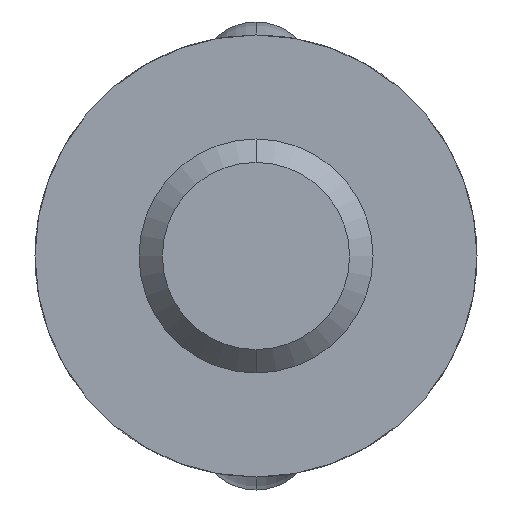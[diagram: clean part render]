
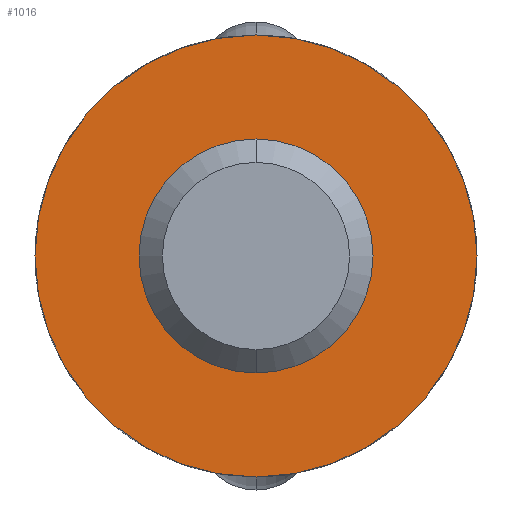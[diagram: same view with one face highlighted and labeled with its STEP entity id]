
A CAD part, front view. The second image highlights one B-rep face of the part: STEP entity #1016.
In plain terms, the highlighted planar face has unit normal (0, -1, 0).
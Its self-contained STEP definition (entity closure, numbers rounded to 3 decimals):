
#1016=ADVANCED_FACE('',(#2014,#2015),#2016,.F.);
#2014=FACE_OUTER_BOUND('',#10220,.T.);
#2015=FACE_BOUND('',#10221,.T.);
#2016=PLANE('',#10222);
#10220=EDGE_LOOP('',(#12804,#12805));
#10221=EDGE_LOOP('',(#12806,#12807));
#10222=AXIS2_PLACEMENT_3D('',#12808,#12809,#12810);
#12804=ORIENTED_EDGE('',*,*,#13660,.T.);
#12805=ORIENTED_EDGE('',*,*,#14015,.T.);
#12806=ORIENTED_EDGE('',*,*,#13691,.T.);
#12807=ORIENTED_EDGE('',*,*,#13707,.T.);
#12808=CARTESIAN_POINT('',(0.0,-139.0,0.0));
#12809=DIRECTION('',(0.0,1.0,0.0));
#12810=DIRECTION('',(1.0,0.0,-0.0));
#13660=EDGE_CURVE('',#15279,#15276,#15280,.T.);
#13691=EDGE_CURVE('',#15327,#15330,#15332,.T.);
#13707=EDGE_CURVE('',#15330,#15327,#15352,.T.);
#14015=EDGE_CURVE('',#15276,#15279,#15783,.T.);
#15276=VERTEX_POINT('',#23234);
#15279=VERTEX_POINT('',#23238);
#15280=CIRCLE('',#23239,85.);
#15327=VERTEX_POINT('',#23335);
#15330=VERTEX_POINT('',#23339);
#15332=CIRCLE('',#23342,40.5);
#15352=CIRCLE('',#23366,40.5);
#15783=CIRCLE('',#24766,85.);
#23234=CARTESIAN_POINT('',(0.,-139.,-85.));
#23238=CARTESIAN_POINT('',(0.,-139.,85.));
#23239=AXIS2_PLACEMENT_3D('',#25714,#25715,#25716);
#23335=CARTESIAN_POINT('',(0.0,-139.0,40.5));
#23339=CARTESIAN_POINT('',(0.,-139.0,-40.5));
#23342=AXIS2_PLACEMENT_3D('',#25758,#25759,#25760);
#23366=AXIS2_PLACEMENT_3D('',#25780,#25781,#25782);
#24766=AXIS2_PLACEMENT_3D('',#26092,#26093,#26094);
#25714=CARTESIAN_POINT('',(0.,-139.,0.));
#25715=DIRECTION('',(0.0,-1.0,0.0));
#25716=DIRECTION('',(0.0,0.0,-1.0));
#25758=CARTESIAN_POINT('',(0.0,-139.0,0.0));
#25759=DIRECTION('',(0.0,1.0,0.0));
#25760=DIRECTION('',(0.0,0.0,1.0));
#25780=CARTESIAN_POINT('',(0.0,-139.0,0.0));
#25781=DIRECTION('',(0.0,1.0,0.0));
#25782=DIRECTION('',(0.0,0.0,1.0));
#26092=CARTESIAN_POINT('',(0.,-139.,0.));
#26093=DIRECTION('',(0.0,-1.0,0.0));
#26094=DIRECTION('',(0.0,0.0,-1.0));
